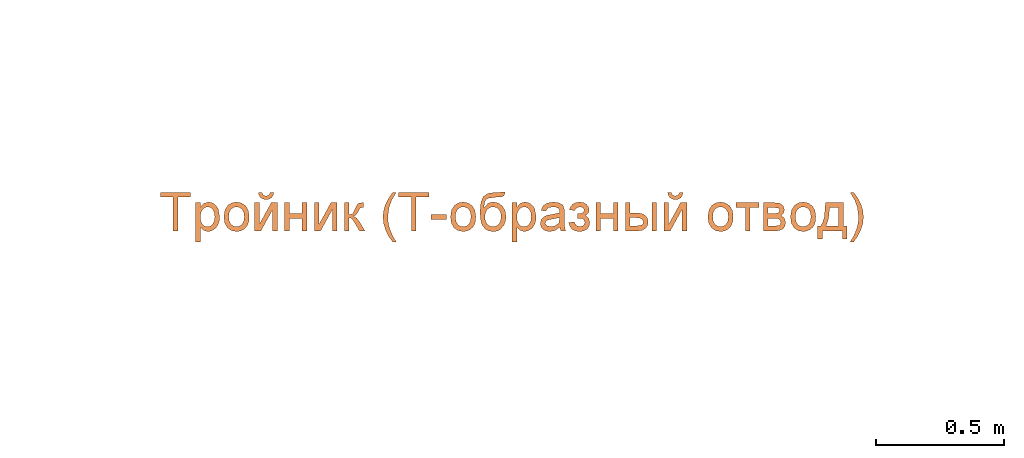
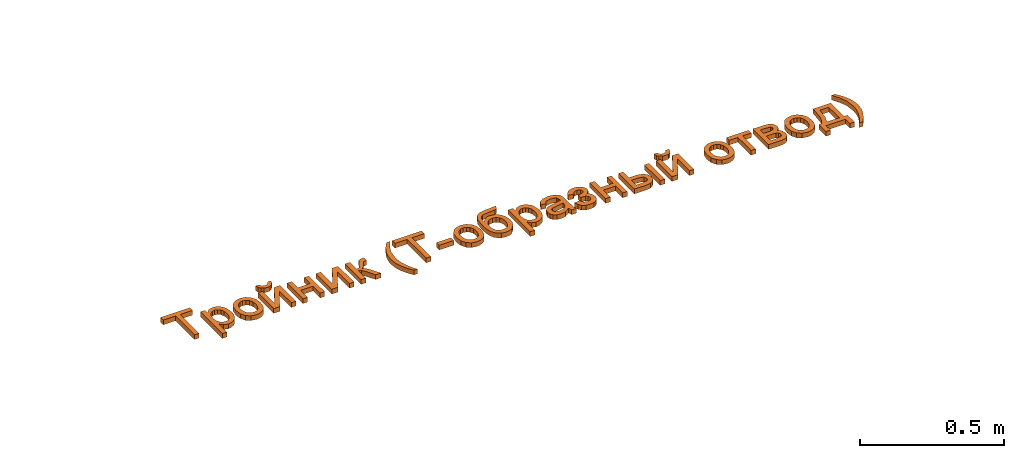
# One storey, part 22 of 87: 1 proxy.
"""IFC2X3 building model written with IfcOpenShell, lengths in millimetres."""

from ifc_helpers import new_model, entity, si_unit, converted_unit, derived_unit, direction, frame, frame_2d, origin, place, context, subcontext, project, spatial, polyline, rectangle, outline, extrude, element, save


model = new_model("IFC2X3")

# Units and contexts
model_context = context("Model", 3, precision=0.01, world=origin(), true_north=direction((6.12303176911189e-17, 1.0)))
body_context = subcontext(model_context, "Body", "Model", "MODEL_VIEW")
ifc_project = project(units=[si_unit("LENGTHUNIT", "METRE", prefix="MILLI"), si_unit("AREAUNIT", "SQUARE_METRE"), si_unit("VOLUMEUNIT", "CUBIC_METRE"), converted_unit("PLANEANGLEUNIT", "DEGREE", entity("IfcRatioMeasure", 0.0174532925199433), si_unit("PLANEANGLEUNIT", "RADIAN"), dimensions=[0, 0, 0, 0, 0, 0, 0]), si_unit("MASSUNIT", "GRAM", prefix="KILO"), derived_unit("MASSDENSITYUNIT", [(si_unit("MASSUNIT", "GRAM", prefix="KILO"), 1), (si_unit("LENGTHUNIT", "METRE"), -3)]), si_unit("TIMEUNIT", "SECOND"), si_unit("FREQUENCYUNIT", "HERTZ"), si_unit("THERMODYNAMICTEMPERATUREUNIT", "DEGREE_CELSIUS"), derived_unit("THERMALTRANSMITTANCEUNIT", [(si_unit("MASSUNIT", "GRAM", prefix="KILO"), 1), (si_unit("THERMODYNAMICTEMPERATUREUNIT", "KELVIN"), -1), (si_unit("TIMEUNIT", "SECOND"), -3)]), derived_unit("VOLUMETRICFLOWRATEUNIT", [(si_unit("LENGTHUNIT", "METRE"), 3), (si_unit("TIMEUNIT", "SECOND"), -1)]), si_unit("ELECTRICCURRENTUNIT", "AMPERE"), si_unit("ELECTRICVOLTAGEUNIT", "VOLT"), si_unit("POWERUNIT", "WATT"), si_unit("FORCEUNIT", "NEWTON", prefix="KILO"), si_unit("ILLUMINANCEUNIT", "LUX"), si_unit("LUMINOUSFLUXUNIT", "LUMEN"), si_unit("LUMINOUSINTENSITYUNIT", "CANDELA"), derived_unit("USERDEFINED", [(si_unit("MASSUNIT", "GRAM", prefix="KILO"), -1), (si_unit("LENGTHUNIT", "METRE"), -2), (si_unit("TIMEUNIT", "SECOND"), 3), (si_unit("LUMINOUSFLUXUNIT", "LUMEN"), 1)]), derived_unit("LINEARVELOCITYUNIT", [(si_unit("LENGTHUNIT", "METRE"), 1), (si_unit("TIMEUNIT", "SECOND"), -1)]), si_unit("PRESSUREUNIT", "PASCAL"), derived_unit("USERDEFINED", [(si_unit("LENGTHUNIT", "METRE"), -2), (si_unit("MASSUNIT", "GRAM", prefix="KILO"), 1), (si_unit("TIMEUNIT", "SECOND"), -2)])], contexts=[model_context])

# Site, building, storey
site_placement = place(None, origin())
site = spatial("IfcSite", under=ifc_project, at=site_placement, Name="Default", CompositionType="ELEMENT")
building_placement = place(site_placement, origin())
building = spatial("IfcBuilding", under=site, at=building_placement, Name="Наименование здания", CompositionType="ELEMENT")
storey_placement = place(building_placement, origin())
storey = spatial("IfcBuildingStorey", under=building, at=storey_placement, Name="Этаж 01", CompositionType="ELEMENT", Elevation=0.0)

# Proxy
proxy_placement = place(storey_placement, origin())
element("IfcBuildingElementProxy", 1, at=proxy_placement, inside=storey, Name="Текст модели:150 мм Arial", ObjectType="Текст модели:150 мм Arial", context=body_context, shape_type="SweptSolid", body=[
    extrude(outline(polyline([(-9.41777907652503, -103.595569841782), (9.4177790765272, -103.595569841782), (9.4177790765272, 28.2533372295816), (58.8611192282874, 28.2533372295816), (58.8611192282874, 47.0888953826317), (-58.8611192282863, 47.0888953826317), (-58.8611192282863, 28.2533372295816), (-9.41777907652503, 28.2533372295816), (-9.41777907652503, -103.595569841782)])), frame((8181.93194719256, -21648.1479388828, 0.0)), (0.0, 0.0, 1.0), 20.0),
    extrude(outline(polyline([(-51.3898957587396, -92.5503727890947), (-32.5543376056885, -92.5503727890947), (-32.5543376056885, -35.4550871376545), (-20.616566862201, -47.6871634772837), (-4.22742397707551, -52.5248117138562), (7.98165973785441, -50.7175914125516), (19.5929352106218, -45.2959305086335), (29.562537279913, -36.4851567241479), (36.8466007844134, -24.5105977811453), (41.3025714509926, -10.1034191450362), (42.7878950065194, 6.00521371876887), (37.5271824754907, 35.0311031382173), (30.9972770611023, 46.7849328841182), (21.9289858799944, 55.5589184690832), (10.7913584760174, 61.0219660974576), (-1.94655560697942, 62.8429819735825), (-19.53131497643, 57.6374517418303), (-32.5543376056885, 42.020861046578), (-32.5543376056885, 60.4885372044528), (-51.3898957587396, 60.4885372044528), (-51.3898957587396, -92.5503727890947)]), holes=[polyline([(-32.5543376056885, 4.27616834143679), (-30.3792353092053, 21.3596884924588), (-23.853928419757, 33.8354866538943), (-14.5051272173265, 41.4644395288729), (-3.85954198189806, 44.0074238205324), (6.74465652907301, 41.6161908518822), (15.7485683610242, 34.4424919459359), (21.9013947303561, 22.467933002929), (23.9523368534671, 5.67411992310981), (21.8508109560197, -11.8462600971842), (15.5462332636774, -24.0875334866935), (6.29859960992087, -31.2888235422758), (-4.63209417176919, -33.6892535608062), (-15.3880440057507, -31.3715969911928), (-24.4057514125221, -24.4186272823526), (-30.5171910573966, -12.6096152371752), (-32.5543376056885, 4.27616834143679)])]), frame((8311.01852033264, -21701.5731417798, 0.0)), (0.0, 0.0, 1.0), 20.0),
    extrude(outline(polyline([(-11.1946000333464, -52.2426443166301), (13.7256178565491, -52.2426443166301), (33.096274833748, -44.5759588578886), (46.3022849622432, -30.4665992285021), (52.7285623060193, -11.1385767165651), (52.8795704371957, 2.26160042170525), (49.5396030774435, 15.0586597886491), (42.9102470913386, 26.3612191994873), (33.1930893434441, 35.2778964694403), (19.4724914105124, 41.8007990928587), (0.832814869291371, 45.9220345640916), (-22.8762356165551, 45.7172545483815), (-41.8930612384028, 37.8901775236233), (-55.1425891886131, 23.7682718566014), (-61.5497466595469, 4.6790059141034), (-60.995114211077, -13.6515433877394), (-53.9645370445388, -29.8701936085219), (-37.0646721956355, -44.5487589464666), (-11.1946000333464, -52.2426443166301)]), holes=[polyline([(-8.64857835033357, -33.5799173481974), (-25.2263685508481, -29.0848574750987), (-36.3325046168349, -20.946182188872), (-42.1575488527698, -10.2052592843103), (-42.892063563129, 2.09654344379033), (-38.8516378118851, 13.6120893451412), (-30.3014219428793, 22.3586496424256), (-17.5331679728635, 27.2345846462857), (-0.83862791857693, 27.138254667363), (16.1172354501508, 22.5908646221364), (27.4101305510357, 14.4263394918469), (33.3060231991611, 3.69417972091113), (34.0708792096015, -8.55611424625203), (30.0134303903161, -20.1946478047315), (21.4625840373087, -28.9457632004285), (8.53602088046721, -33.7580048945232), (-8.64857835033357, -33.5799173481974)])]), frame((8423.57165909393, -21700.340175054, 0.0), z_axis=(0.0, 0.0, 1.0), x_axis=(0.137105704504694, -0.990556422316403, 0.0)), (0.0, 0.0, 1.0), 20.0),
    extrude(outline(polyline([(-18.9086812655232, -8.80638330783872), (-25.1654169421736, -21.4719280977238), (-13.0047964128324, -24.0889504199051), (-2.33253524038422, -22.5548007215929), (6.51477397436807, -17.0109446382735), (13.2005386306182, -7.59884780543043), (17.0548336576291, 4.29420862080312), (16.4301190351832, 15.3019521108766), (11.3772556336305, 25.1120324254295), (1.94710432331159, 33.4120993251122), (-4.30963135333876, 20.7465545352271), (2.85974295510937, 11.2962766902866), (1.28449863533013, 0.175114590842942), (-6.94780563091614, -8.80638330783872), (-18.9086812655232, -8.80638330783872)])), frame((8535.30953777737, -21614.1116280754, 0.0), z_axis=(0.0, 0.0, -1.0), x_axis=(-0.442902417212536, -0.896569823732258, 0.0)), (0.0, 0.0, -1.0), 20.0),
    extrude(outline(polyline([(-54.1522296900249, -43.5572282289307), (56.5066744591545, -43.5572282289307), (56.5066744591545, -24.7216700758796), (7.06333430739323, -24.7216700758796), (7.06333430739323, 24.7216700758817), (56.5066744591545, 24.7216700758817), (56.5066744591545, 43.5572282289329), (-54.1522296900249, 43.5572282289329), (-54.1522296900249, 24.7216700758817), (-11.7722238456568, 24.7216700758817), (-11.7722238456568, -24.7216700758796), (-54.1522296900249, -24.7216700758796), (-54.1522296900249, -43.5572282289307)])), frame((8651.64367863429, -21695.2368342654, 0.0), z_axis=(0.0, 0.0, 1.0), x_axis=(0.0, -1.0, 0.0)), (0.0, 0.0, 1.0), 20.0),
    extrude(outline(polyline([(-55.3809555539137, -44.7638811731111), (55.2779485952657, -44.7638811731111), (55.2779485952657, -20.1157874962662), (-28.599146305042, 25.8694619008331), (55.2779485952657, 25.8694619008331), (55.2779485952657, 44.7050200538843), (-55.3809555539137, 44.7050200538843), (-55.3809555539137, 20.3512319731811), (29.0111741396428, -25.92832302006), (-55.3809555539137, -25.92832302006), (-55.3809555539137, -44.7638811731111)])), frame((8768.21812526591, -21696.4655601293, 0.0), z_axis=(0.0, 0.0, 1.0), x_axis=(0.0, -1.0, 0.0)), (0.0, 0.0, 1.0), 20.0),
    extrude(outline(polyline([(-45.4943568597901, -44.3029556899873), (65.1645472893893, -44.3029556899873), (65.1645472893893, -25.4673975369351), (13.3667623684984, -25.4673975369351), (16.8432472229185, -15.3506426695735), (31.2090391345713, -5.41782879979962), (65.1645472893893, 14.3374343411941), (65.1645472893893, 35.7481664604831), (30.4732751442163, 15.5882331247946), (15.0314283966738, 3.92637387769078), (7.70137964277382, -7.95621456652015), (1.13468602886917, 2.69396919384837), (-12.274612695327, 10.2907323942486), (-24.6722359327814, 16.7654555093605), (-26.6587987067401, 25.9625053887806), (-26.5484341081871, 31.0392769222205), (-45.4943568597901, 31.0392769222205), (-45.4943568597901, 27.4340333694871), (-44.0596170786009, 13.6568526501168), (-38.5229930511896, 6.07848354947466), (-21.5084507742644, -2.51156103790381), (-1.78997583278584, -12.8490451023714), (1.59453852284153, -25.4673975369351), (-45.4943568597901, -25.4673975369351), (-45.4943568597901, -44.3029556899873)])), frame((8885.47943823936, -21686.5789614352, 0.0), z_axis=(0.0, 0.0, 1.0), x_axis=(0.0, -1.0, 0.0)), (0.0, 0.0, 1.0), 20.0),
    extrude(outline(polyline([(13.6624880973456, -93.3246291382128), (27.7891567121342, -93.3246291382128), (13.3681825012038, -69.2053658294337), (3.06748663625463, -45.0769054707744), (-3.11293088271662, -20.9392480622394), (-5.17307005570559, 3.20760639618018), (-0.427392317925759, 40.9890873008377), (10.1676091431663, 69.9046121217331), (27.7891567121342, 99.7398419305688), (13.6624880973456, 99.7398419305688), (-3.68314797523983, 74.4847429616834), (-15.8416479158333, 49.1192793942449), (-21.966883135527, 26.7244629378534), (-24.0086282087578, 3.3179709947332), (-21.2771043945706, -23.3718677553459), (-13.0825329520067, -49.1420015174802), (-0.933230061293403, -72.8427990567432), (13.6624880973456, -93.3246291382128)])), frame((9015.86957598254, -21700.7988854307, 0.0)), (0.0, 0.0, 1.0), 20.0),
    extrude(outline(polyline([(-9.41777907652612, -103.595569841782), (9.41777907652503, -103.595569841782), (9.41777907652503, 28.2533372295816), (58.8611192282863, 28.2533372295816), (58.8611192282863, 47.0888953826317), (-58.8611192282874, 47.0888953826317), (-58.8611192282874, 28.2533372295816), (-9.41777907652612, 28.2533372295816), (-9.41777907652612, -103.595569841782)])), frame((9111.93763099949, -21648.1479388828, 0.0)), (0.0, 0.0, 1.0), 20.0),
    extrude(rectangle(XDim=58.8611192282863, YDim=18.8355581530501, at=frame_2d((1.08357767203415e-12, 2.16626716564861e-12), x_axis=(1.0, 0.0))), frame((9209.64708891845, -21697.5912790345, 0.0)), (0.0, 0.0, 1.0), 20.0),
    extrude(outline(polyline([(-55.3809555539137, -44.7638811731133), (55.2779485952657, -44.7638811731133), (55.2779485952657, -20.1157874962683), (-28.599146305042, 25.869461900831), (55.2779485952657, 25.869461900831), (55.2779485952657, 44.7050200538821), (-55.3809555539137, 44.7050200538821), (-55.3809555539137, 20.3512319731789), (29.0111741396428, -25.9283230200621), (-55.3809555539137, -25.9283230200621), (-55.3809555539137, -44.7638811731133)])), frame((8535.1280931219, -21696.4655601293, 0.0), z_axis=(0.0, 0.0, 1.0), x_axis=(0.0, -1.0, 0.0)), (0.0, 0.0, 1.0), 20.0),
    extrude(outline(polyline([(-11.1946000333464, -52.2426443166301), (13.7256178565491, -52.2426443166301), (33.0962748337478, -44.5759588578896), (46.3022849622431, -30.4665992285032), (52.7285623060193, -11.1385767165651), (52.8795704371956, 2.26160042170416), (49.5396030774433, 15.058659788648), (42.9102470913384, 26.3612191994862), (33.1930893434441, 35.2778964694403), (19.4724914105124, 41.8007990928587), (0.832814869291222, 45.9220345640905), (-22.8762356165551, 45.7172545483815), (-41.893061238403, 37.8901775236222), (-55.1425891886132, 23.7682718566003), (-61.5497466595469, 4.67900591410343), (-60.995114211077, -13.6515433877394), (-53.964537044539, -29.870193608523), (-37.0646721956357, -44.5487589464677), (-11.1946000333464, -52.2426443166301)]), holes=[polyline([(-8.64857835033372, -33.5799173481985), (-25.2263685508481, -29.0848574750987), (-36.3325046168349, -20.946182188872), (-42.15754885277, -10.2052592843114), (-42.892063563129, 2.09654344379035), (-38.8516378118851, 13.6120893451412), (-30.3014219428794, 22.3586496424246), (-17.5331679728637, 27.2345846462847), (-0.838627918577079, 27.1382546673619), (16.1172354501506, 22.5908646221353), (27.4101305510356, 14.4263394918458), (33.3060231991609, 3.69417972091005), (34.0708792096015, -8.55611424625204), (30.013430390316, -20.1946478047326), (21.4625840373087, -28.9457632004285), (8.53602088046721, -33.7580048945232), (-8.64857835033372, -33.5799173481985)])]), frame((9308.84289228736, -21700.340175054, 0.0), z_axis=(0.0, 0.0, 1.0), x_axis=(0.137105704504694, -0.990556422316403, 0.0)), (0.0, 0.0, 1.0), 20.0),
    extrude(outline(polyline([(-60.881927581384, 40.6682754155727), (-74.9928535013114, 32.153061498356), (-63.2418039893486, 22.0787162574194), (-52.2743931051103, 22.4881850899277), (-31.9171667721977, 33.3977598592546), (-3.07459493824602, 45.7326011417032), (5.94566674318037, 44.5803591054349), (14.3153400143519, 39.9848317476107), (30.4801268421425, 20.9942212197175), (7.19742491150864, 27.9983648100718), (-3.61874317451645, 26.7241374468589), (-13.9016242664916, 22.2698741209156), (-28.7123536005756, 8.87986315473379), (-36.4183370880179, -9.12780495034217), (-36.1740270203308, -29.932378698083), (-27.1338756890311, -51.7131065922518), (-16.3519205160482, -66.2070949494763), (-4.41975978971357, -75.8606349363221), (19.8407254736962, -84.0578859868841), (32.1833732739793, -82.6520339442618), (45.704873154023, -76.5066073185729), (59.1131445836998, -65.8212493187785), (66.5804522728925, -53.5326361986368), (69.3766790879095, -40.0184676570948), (68.7717078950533, -25.6564433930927), (62.5996033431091, -7.20441471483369), (48.6944300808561, 18.5797670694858), (26.9630529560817, 47.6761525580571), (6.3977659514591, 61.0089383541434), (-14.9356824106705, 61.2672322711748), (-38.971543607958, 51.1401421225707), (-57.1437595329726, 40.6682754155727), (-60.881927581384, 40.6682754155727)]), holes=[polyline([(-11.311217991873, -41.4774719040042), (-17.2206162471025, -27.7329771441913), (-18.1084549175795, -14.4063686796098), (-13.7099912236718, -2.64839512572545), (-3.7604823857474, 6.39019490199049), (9.43015690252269, 11.1436175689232), (22.4180982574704, 9.36183077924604), (34.4541874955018, 1.64546122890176), (44.7892704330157, -11.4048643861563), (51.0675436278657, -26.3124624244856), (51.1612897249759, -39.9786204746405), (45.9909990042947, -51.5256143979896), (36.4771617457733, -60.0757200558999), (24.2281921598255, -64.2179263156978), (11.3564660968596, -62.2371072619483), (-0.902007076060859, -54.5260325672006), (-11.311217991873, -41.4774719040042)])]), frame((9422.21764055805, -21664.9798334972, 0.0), z_axis=(0.0, 0.0, -1.0), x_axis=(-0.856187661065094, -0.516664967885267, 0.0)), (0.0, 0.0, -1.0), 20.0),
    extrude(outline(polyline([(-51.3898957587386, -92.5503727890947), (-32.5543376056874, -92.5503727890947), (-32.5543376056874, -35.4550871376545), (-20.6165668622, -47.6871634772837), (-4.22742397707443, -52.5248117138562), (7.98165973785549, -50.7175914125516), (19.5929352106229, -45.2959305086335), (29.5625372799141, -36.4851567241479), (36.8466007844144, -24.5105977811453), (41.3025714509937, -10.1034191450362), (42.7878950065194, 6.00521371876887), (37.5271824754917, 35.0311031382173), (30.9972770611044, 46.7849328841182), (21.9289858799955, 55.5589184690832), (10.7913584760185, 61.0219660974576), (-1.94655560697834, 62.8429819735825), (-19.531314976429, 57.6374517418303), (-32.5543376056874, 42.020861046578), (-32.5543376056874, 60.4885372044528), (-51.3898957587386, 60.4885372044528), (-51.3898957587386, -92.5503727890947)]), holes=[polyline([(-32.5543376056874, 4.27616834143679), (-30.3792353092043, 21.3596884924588), (-23.8539284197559, 33.8354866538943), (-14.5051272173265, 41.4644395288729), (-3.85954198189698, 44.0074238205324), (6.7446565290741, 41.6161908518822), (15.7485683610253, 34.4424919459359), (21.9013947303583, 22.467933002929), (23.9523368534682, 5.67411992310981), (21.8508109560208, -11.8462600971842), (15.5462332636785, -24.0875334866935), (6.29859960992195, -31.2888235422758), (-4.63209417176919, -33.6892535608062), (-15.3880440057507, -31.3715969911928), (-24.405751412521, -24.4186272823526), (-30.5171910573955, -12.6096152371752), (-32.5543376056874, 4.27616834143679)])]), frame((9547.10202412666, -21701.5731417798, 0.0)), (0.0, 0.0, 1.0), 20.0),
    extrude(outline(polyline([(49.6524096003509, 10.0181831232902), (64.5432257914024, 10.0181831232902), (70.4995522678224, 27.88716255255), (54.2883394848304, 29.3355270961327), (22.9420080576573, 38.7760718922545), (0.710484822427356, 46.1865796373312), (-15.2157084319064, 50.5258565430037), (-29.1700318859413, 49.0891254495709), (-41.2222862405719, 39.5147959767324), (-51.6167739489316, 18.9177724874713), (-55.8804334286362, -5.85565960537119), (-50.8431495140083, -24.8298167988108), (-35.96978349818, -38.3769694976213), (-27.7798345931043, -21.2525308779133), (-37.1040448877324, -8.56625349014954), (-34.5156022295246, 10.6580228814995), (-29.3910674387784, 21.7272506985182), (-22.7658175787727, 28.689870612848), (-16.3179778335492, 30.641381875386), (-7.93316863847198, 29.2133758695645), (-3.98942903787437, 27.7824615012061), (-8.17747109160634, -5.25653692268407), (-10.6437625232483, -21.6131678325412), (-8.95109552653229, -36.0793630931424), (-1.68600590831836, -48.4864376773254), (11.3085579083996, -56.6182193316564), (24.0777236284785, -58.3588743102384), (36.0005558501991, -54.785950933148), (46.0329524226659, -45.8907241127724), (53.130811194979, -31.6644687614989), (55.9868232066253, -11.3466480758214), (49.6524096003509, 10.0181831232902)]), holes=[polyline([(13.9144507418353, 21.9308360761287), (18.9401012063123, 20.1392847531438), (31.8183305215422, 12.7055101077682), (38.2807120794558, -2.40052491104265), (36.5298778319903, -21.9040040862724), (27.4499699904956, -36.2305979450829), (16.0084717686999, -38.3304356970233), (9.94744424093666, -33.5956214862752), (7.55677023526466, -25.0624858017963), (9.78457593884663, -8.7233050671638), (13.9144507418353, 21.9308360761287)])]), frame((9656.50771155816, -21693.6804560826, 0.0), z_axis=(0.0, 0.0, 1.0), x_axis=(0.316227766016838, -0.948683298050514, 0.0)), (0.0, 0.0, 1.0), 20.0),
    extrude(outline(polyline([(-10.9130485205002, 6.89941501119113), (-10.3482358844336, -11.9276728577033), (4.52957613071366, -12.217433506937), (12.1484793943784, -15.9085723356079), (15.9240091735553, -23.9843634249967), (11.4840155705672, -33.631591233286), (-0.599334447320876, -37.5457501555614), (-13.2995289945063, -34.3934999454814), (-21.7621579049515, -24.0476106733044), (-42.8720301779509, -27.0364108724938), (-36.8536132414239, -40.2527875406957), (-28.0265772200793, -49.5572115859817), (-16.3909221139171, -54.9496830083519), (-1.94664792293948, -56.4302018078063), (13.7217087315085, -53.6276500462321), (25.4259889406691, -46.2790184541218), (32.6205932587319, -35.826859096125), (34.7599222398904, -23.713724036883), (30.8514629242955, -12.1270671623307), (19.9071149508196, -3.40142898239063), (32.0024157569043, 8.70214544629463), (35.6328813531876, 25.7044398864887), (32.5925548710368, 39.4840204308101), (24.3893959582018, 50.2287442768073), (11.5849997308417, 57.007736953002), (-5.25903869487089, 58.8901239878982), (-21.5976047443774, 56.1916819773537), (-33.9519618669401, 49.1961961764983), (-42.3221100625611, 37.903666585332), (-46.7080493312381, 22.3140932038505), (-25.456973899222, 20.5961214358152), (-17.3797119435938, 34.7506349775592), (-2.89241491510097, 40.1170904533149), (11.0019391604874, 35.8045106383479), (16.8433005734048, 23.8893909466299), (13.7386696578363, 13.8957741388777), (6.65350698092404, 8.38333518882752), (-7.23257347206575, 6.89941501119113), (-10.9130485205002, 6.89941501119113)])), frame((9763.04785979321, -21695.0766119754, 0.0), z_axis=(0.0, 0.0, -1.0), x_axis=(0.999550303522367, 0.0299865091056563, 0.0)), (0.0, 0.0, -1.0), 20.0),
    extrude(outline(polyline([(-54.1522296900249, -43.5572282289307), (56.5066744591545, -43.5572282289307), (56.5066744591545, -24.7216700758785), (7.06333430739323, -24.7216700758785), (7.06333430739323, 24.7216700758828), (56.5066744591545, 24.7216700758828), (56.5066744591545, 43.5572282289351), (-54.1522296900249, 43.5572282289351), (-54.1522296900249, 24.7216700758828), (-11.7722238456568, 24.7216700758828), (-11.7722238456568, -24.7216700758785), (-54.1522296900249, -24.7216700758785), (-54.1522296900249, -43.5572282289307)])), frame((9866.53717950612, -21695.2368342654, 0.0), z_axis=(0.0, 0.0, 1.0), x_axis=(0.0, -1.0, 0.0)), (0.0, 0.0, 1.0), 20.0),
    extrude(outline(polyline([(-63.5983073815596, -51.7709012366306), (47.0605967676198, -51.7709012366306), (47.0605967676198, -5.60171084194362), (44.4808242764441, 13.9742098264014), (36.7415068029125, 27.3789100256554), (25.3693546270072, 35.1182274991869), (11.8910780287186, 37.6979999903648), (-2.9115737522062, 34.6215868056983), (-14.136573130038, 25.392347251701), (-21.2137030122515, 10.479330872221), (-23.5727463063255, -9.64841278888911), (-23.5727463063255, -32.9353430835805), (-63.5983073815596, -32.9353430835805), (-63.5983073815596, -51.7709012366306)]), holes=[polyline([(28.2250386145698, -32.9353430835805), (-4.73718815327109, -32.9353430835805), (-4.73718815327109, -11.1199407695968), (-3.46799526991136, 4.4460661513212), (0.339583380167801, 13.3258178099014), (11.9278662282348, 18.8624418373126), (19.2073312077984, 16.9954407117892), (24.270307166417, 11.3944373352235), (28.2250386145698, -13.5847501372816), (28.2250386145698, -32.9353430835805)])]), frame((9990.11864620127, -21704.6829119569, 0.0), z_axis=(0.0, 0.0, 1.0), x_axis=(0.0, -1.0, 0.0)), (0.0, 0.0, 1.0), 20.0),
    extrude(outline(polyline([(-18.908681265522, -8.80638330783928), (-25.1654169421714, -21.4719280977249), (-13.00479641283, -24.0889504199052), (-2.33253524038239, -22.5548007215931), (6.51477397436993, -17.010944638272), (13.2005386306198, -7.59884780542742), (17.0548336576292, 4.29420862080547), (16.4301190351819, 15.3019521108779), (11.3772556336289, 25.1120324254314), (1.94710432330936, 33.4120993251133), (-4.30963135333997, 20.7465545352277), (2.85974295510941, 11.2962766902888), (1.28449863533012, 0.175114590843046), (-6.94780563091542, -8.80638330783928), (-18.908681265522, -8.80638330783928)])), frame((10133.9775360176, -21614.1116280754, 0.0), z_axis=(0.0, 0.0, -1.0), x_axis=(-0.442902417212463, -0.896569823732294, 0.0)), (0.0, 0.0, -1.0), 20.0),
    extrude(outline(polyline([(-55.3809555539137, -44.7638811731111), (55.2779485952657, -44.7638811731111), (55.2779485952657, -20.1157874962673), (-28.599146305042, 25.8694619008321), (55.2779485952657, 25.8694619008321), (55.2779485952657, 44.7050200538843), (-55.3809555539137, 44.7050200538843), (-55.3809555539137, 20.3512319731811), (29.0111741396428, -25.9283230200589), (-55.3809555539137, -25.9283230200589), (-55.3809555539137, -44.7638811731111)])), frame((10133.7960913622, -21696.4655601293, 0.0), z_axis=(0.0, 0.0, 1.0), x_axis=(0.0, -1.0, 0.0)), (0.0, 0.0, 1.0), 20.0),
    extrude(outline(polyline([(-11.1946000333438, -52.2426443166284), (13.7256178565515, -52.2426443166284), (33.0962748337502, -44.575958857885), (46.3022849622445, -30.4665992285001), (52.7285623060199, -11.1385767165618), (52.8795704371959, 2.26160042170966), (49.5396030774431, 15.0586597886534), (42.9102470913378, 26.3612191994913), (33.1930893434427, 35.2778964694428), (19.4724914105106, 41.8007990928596), (0.832814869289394, 45.9220345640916), (-22.876235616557, 45.7172545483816), (-41.8930612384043, 37.8901775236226), (-55.1425891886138, 23.7682718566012), (-61.5497466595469, 4.67900591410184), (-60.9951142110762, -13.6515433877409), (-53.9645370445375, -29.8701936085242), (-37.0646721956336, -44.5487589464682), (-11.1946000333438, -52.2426443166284)]), holes=[polyline([(-8.64857835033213, -33.5799173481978), (-25.2263685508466, -29.0848574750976), (-36.3325046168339, -20.9461821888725), (-42.1575488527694, -10.2052592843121), (-42.892063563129, 2.09654344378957), (-38.8516378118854, 13.6120893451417), (-30.3014219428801, 22.3586496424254), (-17.5331679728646, 27.2345846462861), (-0.8386279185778, 27.1382546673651), (16.1172354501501, 22.5908646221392), (27.4101305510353, 14.4263394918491), (33.3060231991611, 3.69417972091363), (34.070879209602, -8.5561142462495), (30.013430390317, -20.1946478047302), (21.4625840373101, -28.9457632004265), (8.53602088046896, -33.7580048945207), (-8.64857835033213, -33.5799173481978)])]), frame((10314.1908087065, -21700.340175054, 0.0), z_axis=(0.0, 0.0, 1.0), x_axis=(0.137105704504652, -0.990556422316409, 0.0)), (0.0, 0.0, 1.0), 20.0),
    extrude(outline(polyline([(-37.0825051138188, -44.7344506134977), (-18.2469469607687, -44.7344506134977), (-18.2469469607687, -9.4177790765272), (73.5763990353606, -9.4177790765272), (73.5763990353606, 9.41777907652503), (-18.2469469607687, 9.41777907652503), (-18.2469469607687, 44.7344506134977), (-37.0825051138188, 44.7344506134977), (-37.0825051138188, -44.7344506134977)])), frame((10416.3000330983, -21678.1671096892, 0.0), z_axis=(0.0, 0.0, 1.0), x_axis=(0.0, -1.0, 0.0)), (0.0, 0.0, 1.0), 20.0),
    extrude(outline(polyline([(-56.9428773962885, -61.1019147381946), (53.7160267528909, -61.1019147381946), (53.7160267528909, -13.2404671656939), (51.7202669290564, 3.22225211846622), (45.732987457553, 15.2335992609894), (35.6254296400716, 22.8211654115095), (21.2688347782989, 26.012541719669), (3.51852851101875, 20.9725583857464), (-6.69019685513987, 8.31741775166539), (-16.01600543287, 18.0662906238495), (-29.0942103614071, 21.3036521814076), (-45.1890476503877, 15.950969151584), (-54.422885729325, 3.1486757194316), (-56.9428773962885, -19.6048256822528), (-56.9428773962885, -61.1019147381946)]), holes=[polyline([(-14.5628715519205, -42.2663565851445), (-38.1073192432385, -42.2663565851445), (-38.1073192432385, -23.0629164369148), (-35.4953570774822, -3.30765329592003), (-31.8809164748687, 1.02415719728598), (-26.2615189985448, 2.46809402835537), (-19.3453374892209, -0.824449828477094), (-15.5193647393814, -8.29245433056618), (-14.5628715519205, -23.6515276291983), (-14.5628715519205, -42.2663565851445)]), polyline([(34.8804685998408, -42.2663565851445), (4.2726866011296, -42.2663565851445), (4.2726866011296, -21.0027772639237), (5.37633258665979, -4.4296933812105), (10.6554392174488, 3.95801610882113), (19.7237303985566, 7.1769835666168), (26.8376484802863, 5.56749983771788), (31.4775601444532, 1.32765984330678), (34.8804685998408, -19.1633672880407), (34.8804685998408, -42.2663565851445)])]), frame((10538.6175118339, -21698.0274819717, 0.0), z_axis=(0.0, 0.0, 1.0), x_axis=(0.0, -1.0, 0.0)), (0.0, 0.0, 1.0), 20.0),
    extrude(outline(polyline([(-11.1946000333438, -52.2426443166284), (13.7256178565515, -52.2426443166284), (33.0962748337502, -44.575958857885), (46.3022849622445, -30.4665992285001), (52.7285623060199, -11.1385767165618), (52.8795704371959, 2.26160042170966), (49.5396030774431, 15.0586597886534), (42.9102470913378, 26.3612191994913), (33.1930893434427, 35.2778964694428), (19.4724914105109, 41.8007990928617), (0.832814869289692, 45.9220345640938), (-22.876235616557, 45.7172545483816), (-41.8930612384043, 37.8901775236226), (-55.1425891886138, 23.7682718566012), (-61.5497466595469, 4.67900591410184), (-60.9951142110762, -13.6515433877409), (-53.9645370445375, -29.8701936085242), (-37.0646721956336, -44.5487589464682), (-11.1946000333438, -52.2426443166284)]), holes=[polyline([(-8.64857835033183, -33.5799173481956), (-25.2263685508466, -29.0848574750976), (-36.3325046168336, -20.9461821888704), (-42.1575488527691, -10.20525928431), (-42.892063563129, 2.09654344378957), (-38.8516378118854, 13.6120893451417), (-30.3014219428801, 22.3586496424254), (-17.5331679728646, 27.2345846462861), (-0.8386279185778, 27.1382546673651), (16.1172354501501, 22.5908646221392), (27.4101305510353, 14.4263394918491), (33.3060231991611, 3.69417972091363), (34.070879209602, -8.5561142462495), (30.0134303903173, -20.1946478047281), (21.4625840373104, -28.9457632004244), (8.53602088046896, -33.7580048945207), (-8.64857835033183, -33.5799173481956)])]), frame((10636.7497420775, -21700.340175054, 0.0), z_axis=(0.0, 0.0, 1.0), x_axis=(0.137105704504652, -0.990556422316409, 0.0)), (0.0, 0.0, 1.0), 20.0),
    extrude(outline(polyline([(-89.8120245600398, 30.1307985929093), (-95.2116329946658, -40.2958539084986), (-3.6569847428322, -47.3153448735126), (-4.73690642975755, -61.4006753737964), (44.5617503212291, -65.1804012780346), (46.0016459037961, -46.3999606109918), (15.4834298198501, -44.0601302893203), (21.4229990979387, 33.4091874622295), (51.9412151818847, 31.069357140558), (53.3811107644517, 49.8497978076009), (4.08245401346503, 53.6295237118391), (3.18251927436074, 41.8917482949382), (-12.89127653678, 34.5411547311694), (-33.7482991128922, 30.1307985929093), (-89.8120245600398, 30.1307985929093)]), holes=[polyline([(-72.2914925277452, 12.2580174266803), (-29.1661575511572, 13.3791398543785), (1.56263674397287, 20.7637525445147), (-2.21708916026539, -28.534904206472), (-74.9912967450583, -22.9553088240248), (-72.2914925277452, 12.2580174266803)])]), frame((10743.2003024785, -21732.9371840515, 0.0), z_axis=(0.0, 0.0, -1.0), x_axis=(-0.0764456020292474, -0.997073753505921, 0.0)), (0.0, 0.0, -1.0), 20.0),
    extrude(outline(polyline([(-83.995261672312, -42.8256525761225), (-58.8848744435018, -42.8256525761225), (-32.5162695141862, -39.0354754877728), (-6.73167605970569, -30.8448991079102), (16.6266767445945, -17.6437012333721), (34.5375072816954, -2.43729674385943), (49.2607817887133, 15.5146251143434), (62.9167935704, 40.1062742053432), (73.4819470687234, 68.8650754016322), (65.3094547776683, 80.3877979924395), (50.9918284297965, 48.4939868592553), (33.4417701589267, 23.1926134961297), (5.63999908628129, -2.34391870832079), (-15.2477264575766, -14.632843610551), (-38.5115938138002, -23.5556537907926), (-64.151602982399, -29.112349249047), (-92.1677539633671, -31.3029299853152), (-83.995261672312, -42.8256525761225)])), frame((10844.343177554, -21700.8356736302, 0.0), z_axis=(0.0, 0.0, 1.0), x_axis=(0.578515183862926, 0.815671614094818, 0.0)), (0.0, 0.0, 1.0), 20.0),
    extrude(rectangle(XDim=110.658904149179, YDim=18.8355581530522, at=frame_2d((2.16715534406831e-12, 1.08268949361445e-12), x_axis=(1.0, 0.0))), frame((10051.3610938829, -21696.4140566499, 0.0), z_axis=(0.0, 0.0, 1.0), x_axis=(0.0, -1.0, 0.0)), (0.0, 0.0, 1.0), 20.0),
])

save(model, "model.ifc")
